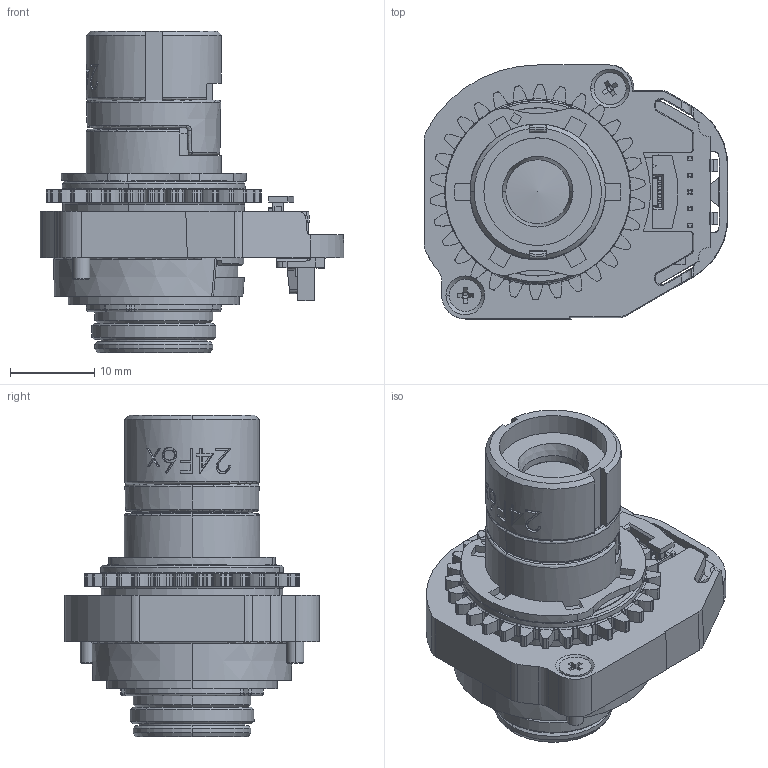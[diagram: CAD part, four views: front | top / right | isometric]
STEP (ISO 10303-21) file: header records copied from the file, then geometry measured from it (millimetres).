
FILE_DESCRIPTION (( 'STEP AP203' ), '1' );
FILE_NAME ('CLN-C24FxFS.STEP', '2025-06-23T14:26:12', ( '' ), ( '' ), 'SwSTEP 2.0', 'SolidWorks 2025', '' );
FILE_SCHEMA (( 'CONFIG_CONTROL_DESIGN' ));
Length unit declared in the file: millimetre
Products named in the file (1): CLN-C24FxFS
Bounding box: 36.1 x 30.2 x 38.27 mm (x, y, z)
Volume: 11393.8 mm3; surface area: 7714.7 mm2
Topology: 15 solids, 15 shells, 1886 faces, 5177 edges, 3308 vertices
Faces by surface type: plane 879, cylinder 475, bspline 210, torus 179, cone 117, sphere 26
Entity records: 65623 total; most frequent: CARTESIAN_POINT 18745, ORIENTED_EDGE 10294, DIRECTION 9488, EDGE_CURVE 5147, AXIS2_PLACEMENT_3D 3440, VERTEX_POINT 3299, LINE 2608, VECTOR 2608
